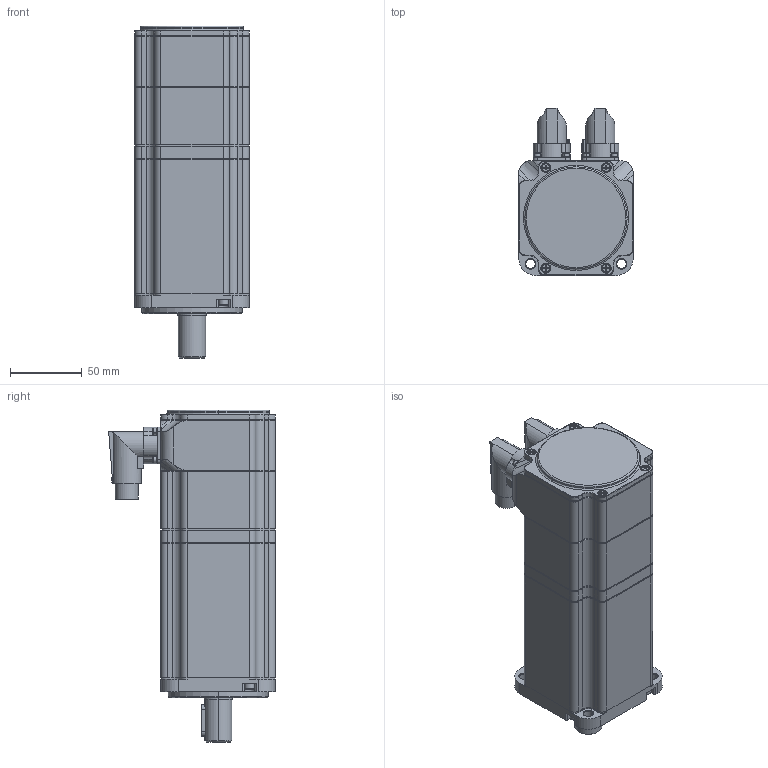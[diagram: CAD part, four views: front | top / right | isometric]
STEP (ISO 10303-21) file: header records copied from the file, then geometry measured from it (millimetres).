
FILE_DESCRIPTION (( 'STEP AP203' ), '1' );
FILE_NAME ('L80-753026XBC（SMH80-753026XBC-XX）.STEP', '2016-06-08T01:56:56', ( '微软用户' ), ( '微软中国' ), 'SwSTEP 2.0', 'SolidWorks 2011', '' );
FILE_SCHEMA (( 'CONFIG_CONTROL_DESIGN' ));
Length unit declared in the file: millimetre
Products named in the file (26): L80-753026XBC（SMH80-753026XBC-XX）; M17萇埭; M17陓瘍; spring lock washers--normal type gb_GB_FASTENER_WASHER_SW 2.5; hexagon socket head cap screws gb_GB_FASTENER_SCREWS_HSHCS M2.5X6-N; 嘎殤蚐猾; 价陬欶; circlips for holes--type a gb_GB_CONNECTING_PIECE_RING_RRH 42; 瑩; cross recessed countersunk head screws gb2_GB_CROSS_SCREWS_TYPE10 M3X8-6.35-H1-N; hexagon socket head cap screws gb_GB_FASTENER_SCREWS_HSHCS M4X35-N; 鎢攫欶綴裔; 躇猾菜; 鎢攫欶; 蛌赽軞傖_Default; 綴傷裔; deep groove ball bearings gb_Rolling bearings 6004 GB 276-94; deep groove ball bearings gb_Rolling bearings 6002 GB 276-94; circlips for shaft--type a large gb_GB_CONNECTING_PIECE_RING_RRA 15; 蛌赽郪璃_Default; 蛌粣; 隅赽軞傖_Default; hexagon socket head cap screws gb_GB_FASTENER_SCREWS_HSHCS M4X16-N; ヶ傷裔И璃; 儂褲; ヶ傷裔
Assembly tree (59 placements, depth 4):
  L80-753026XBC（SMH80-753026XBC-XX）
    hexagon socket head cap screws gb_GB_FASTENER_SCREWS_HSHCS M4X35-N  x8
    价陬欶
    躇猾菜  x4
    spring lock washers--normal type gb_GB_FASTENER_WASHER_SW 2.5  x8
    circlips for holes--type a gb_GB_CONNECTING_PIECE_RING_RRH 42
    瑩
    cross recessed countersunk head screws gb2_GB_CROSS_SCREWS_TYPE10 M3X8-6.35-H1-N  x4
    hexagon socket head cap screws gb_GB_FASTENER_SCREWS_HSHCS M2.5X6-N  x8
    鎢攫欶綴裔
    鎢攫欶
    隅赽軞傖_Default
      hexagon socket head cap screws gb_GB_FASTENER_SCREWS_HSHCS M4X16-N  x4
      ヶ傷裔И璃
      儂褲
      ヶ傷裔
    hexagon socket head cap screws gb_GB_FASTENER_SCREWS_HSHCS M4X16-N  x4
    蛌赽軞傖_Default
      蛌赽郪璃_Default
        蛌粣
      deep groove ball bearings gb_Rolling bearings 6002 GB 276-94
      circlips for shaft--type a large gb_GB_CONNECTING_PIECE_RING_RRA 15
      綴傷裔
      deep groove ball bearings gb_Rolling bearings 6004 GB 276-94
    M17萇埭
    M17陓瘍
    嘎殤蚐猾
Bounding box: 80 x 116.6 x 232.1 mm (x, y, z)
Volume: 424148.2 mm3; surface area: 233604.1 mm2
Topology: 56 solids, 56 shells, 2626 faces, 7159 edges, 4586 vertices
Faces by surface type: cylinder 1050, plane 996, cone 225, torus 203, sphere 86, bspline 66
Entity records: 67749 total; most frequent: CARTESIAN_POINT 16903, DIRECTION 10171, ORIENTED_EDGE 9882, EDGE_CURVE 4941, AXIS2_PLACEMENT_3D 4067, VERTEX_POINT 3237, CIRCLE 2244, EDGE_LOOP 2110
